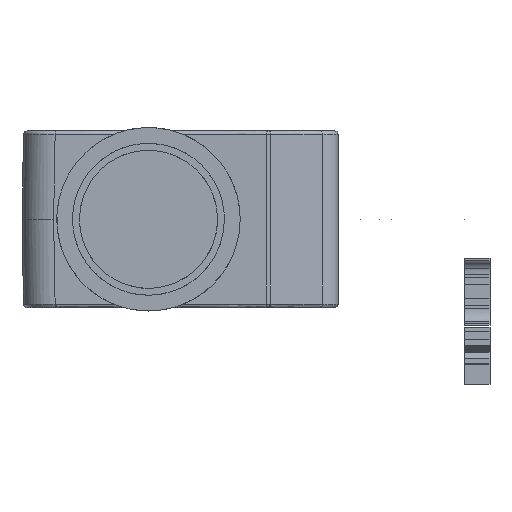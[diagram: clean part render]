
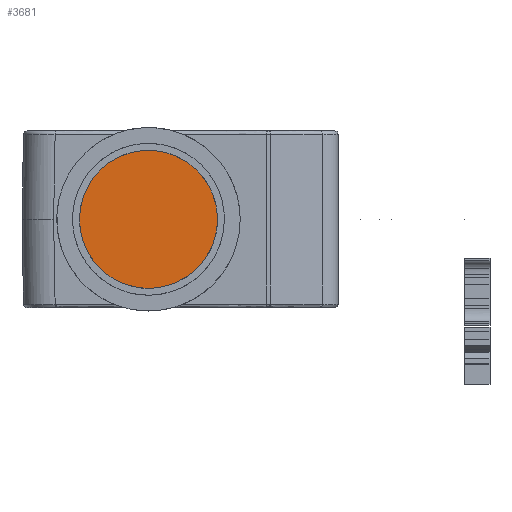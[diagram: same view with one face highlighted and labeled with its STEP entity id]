
A CAD part, front view. The second image highlights one B-rep face of the part: STEP entity #3681.
In plain terms, the highlighted planar face has unit normal (0, -1, 0).
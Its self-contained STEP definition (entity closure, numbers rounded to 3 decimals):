
#47=PLANE('',#7795);
#3681=ADVANCED_FACE('',(#4135),#47,.F.);
#4135=FACE_OUTER_BOUND('',#4506,.T.);
#4506=EDGE_LOOP('',(#6148));
#6148=ORIENTED_EDGE('',*,*,#7499,.F.);
#6678=VERTEX_POINT('',#13814);
#7499=EDGE_CURVE('',#6678,#6678,#7740,.T.);
#7740=(
BOUNDED_CURVE()
B_SPLINE_CURVE(2,(#13807,#13808,#13809,#13810,#13811,#13812,#13813),
 .UNSPECIFIED.,.T.,.F.)
B_SPLINE_CURVE_WITH_KNOTS((1,2,2,2,2,1),(-0.333,0.,0.333,
0.667,1.,1.333),.UNSPECIFIED.)
CURVE()
GEOMETRIC_REPRESENTATION_ITEM()
RATIONAL_B_SPLINE_CURVE((1.,0.5,1.,0.5,1.,0.5,1.))
REPRESENTATION_ITEM('')
);
#7795=AXIS2_PLACEMENT_3D('',#13829,#7904,#7905);
#7904=DIRECTION('',(0.,1.,0.));
#7905=DIRECTION('',(0.984,0.,-0.176));
#13807=CARTESIAN_POINT('',(-16.336,-108.423,-0.29));
#13808=CARTESIAN_POINT('',(-16.336,-108.423,-9.744));
#13809=CARTESIAN_POINT('',(-24.524,-108.423,-5.017));
#13810=CARTESIAN_POINT('',(-32.711,-108.423,-0.29));
#13811=CARTESIAN_POINT('',(-24.524,-108.423,4.437));
#13812=CARTESIAN_POINT('',(-16.336,-108.423,9.164));
#13813=CARTESIAN_POINT('',(-16.336,-108.423,-0.29));
#13814=CARTESIAN_POINT('',(-16.336,-108.423,-0.29));
#13829=CARTESIAN_POINT('',(-21.795,-108.423,-0.29));
